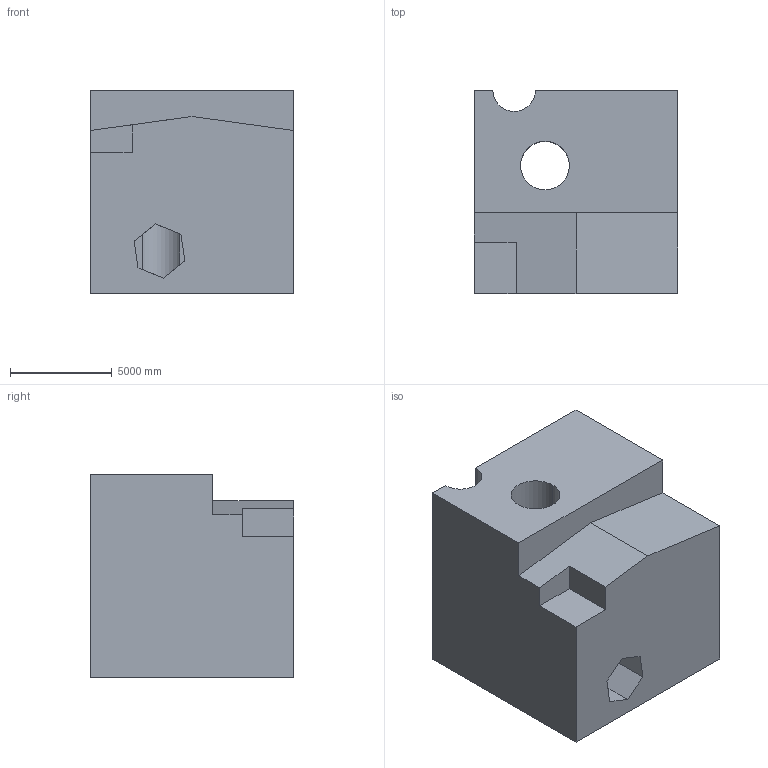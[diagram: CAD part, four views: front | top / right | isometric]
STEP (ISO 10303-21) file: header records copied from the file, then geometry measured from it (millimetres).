
FILE_DESCRIPTION (( 'STEP AP203' ), '1' );
FILE_NAME ('526.STEP', '2022-07-29T11:39:29', ( 'user' ), ( '' ), 'SwSTEP 2.0', 'SolidWorks 2021', '' );
FILE_SCHEMA (( 'CONFIG_CONTROL_DESIGN' ));
Length unit declared in the file: centimetre
Products named in the file (1): 526
Bounding box: 10000 x 10000 x 10000 mm (x, y, z)
Volume: 838698981199.6 mm3; surface area: 703459888.3 mm2
Topology: 1 solids, 1 shells, 28 faces, 75 edges, 50 vertices
Faces by surface type: plane 25, cylinder 3
Entity records: 950 total; most frequent: CARTESIAN_POINT 166, ORIENTED_EDGE 150, DIRECTION 135, EDGE_CURVE 75, LINE 65, VECTOR 65, VERTEX_POINT 50, AXIS2_PLACEMENT_3D 35
